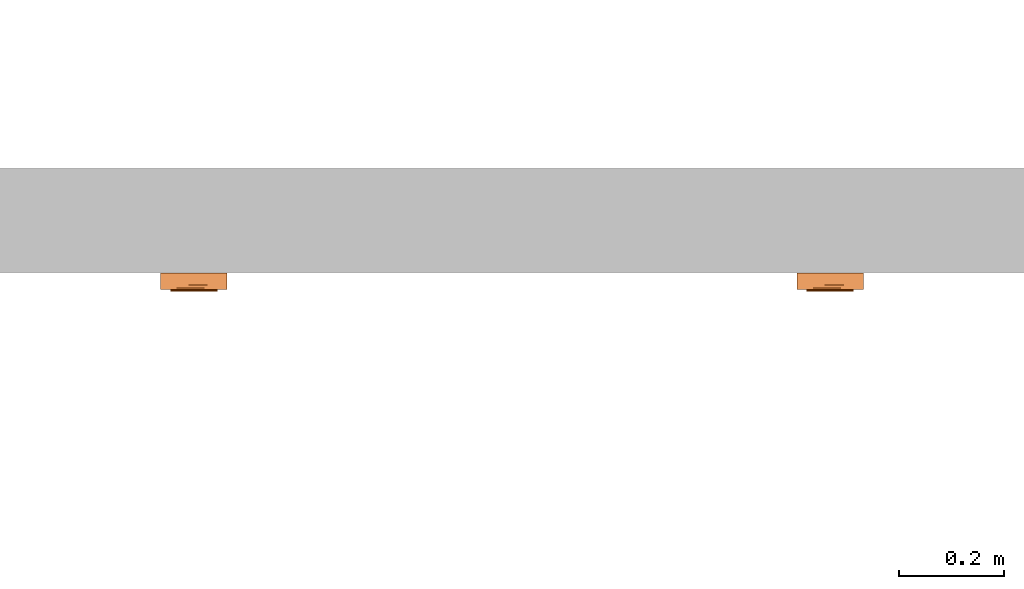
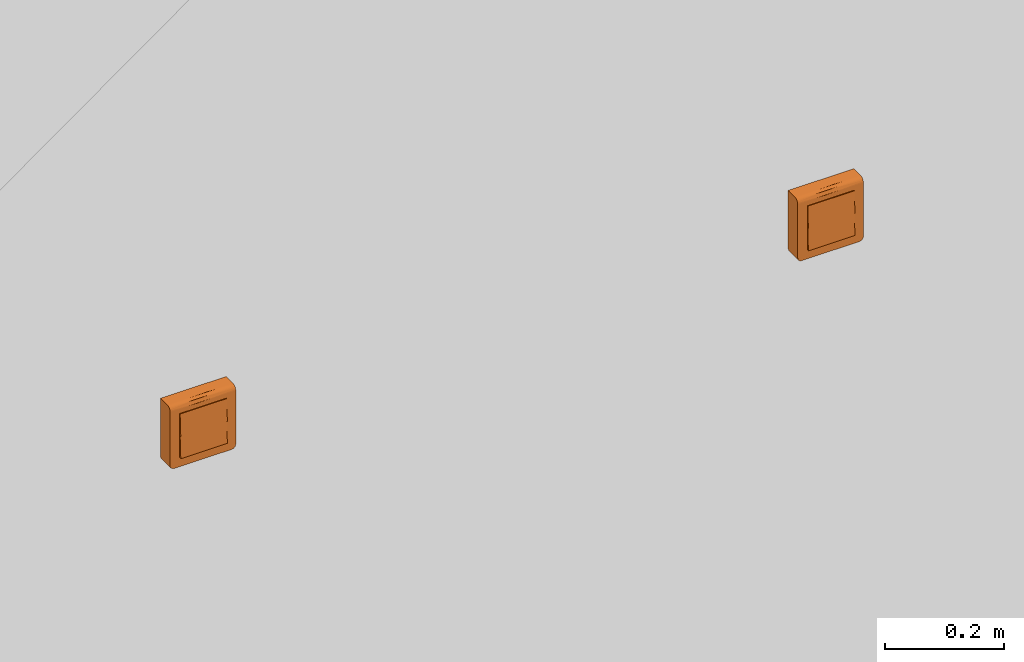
# One storey, part 166 of 197: 2 proxies.
"""IFC2X3 building model written with IfcOpenShell, lengths in metres."""

from ifc_helpers import new_model, entity, si_unit, converted_unit, direction, frame, origin, place, context, subcontext, project, spatial, faceted_brep, source, transform, mapped, material, material_list, type_object, type_shapes, element, save


model = new_model("IFC2X3")

# Units and contexts
model_context = context("Model", 3, precision=1e-05, world=origin(), true_north=direction((6.123031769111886e-17, 1.0)))
body_context = subcontext(model_context, "Body", "Model", "MODEL_VIEW")
ifc_project = project(units=[si_unit("LENGTHUNIT", "METRE"), converted_unit("PLANEANGLEUNIT", "DEGREE", entity("IfcPlaneAngleMeasure", 0.017453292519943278), si_unit("PLANEANGLEUNIT", "RADIAN"), dimensions=[0, 0, 0, 0, 0, 0, 0]), si_unit("AREAUNIT", "SQUARE_METRE")], contexts=[model_context])

# Site, building, storey
site_placement = place(None, origin())
site = spatial("IfcSite", under=ifc_project, at=site_placement, Name="Default", CompositionType="ELEMENT")
building_placement = place(site_placement, origin())
building = spatial("IfcBuilding", under=site, at=building_placement, CompositionType="ELEMENT")
storey_placement = place(building_placement, origin())
storey = spatial("IfcBuildingStorey", under=building, at=storey_placement, Name="Niveau 0", CompositionType="ELEMENT", Elevation=0.0)

# Proxies
ifc_material_1 = material(Name="BETCE-CADRE-BLANC")
ifc_material_2 = material(Name="BETCE-DOIGT-BLANC")
ifc_material_3 = material(Name="BETCE-ENJOLIVEUR-BLANC")
ifc_material_list = material_list([ifc_material_1, ifc_material_2, ifc_material_3])
building_element_proxy_type_1 = type_object("IfcBuildingElementProxyType", Name="Tableau commande 2x4 modules saillie:2 BP + 6 VV", PredefinedType="NOTDEFINED", material=ifc_material_list)
shared_shape_1 = source(origin(), body_context, "Body", "Brep", [
    faceted_brep([(0.06349999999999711, -0.022999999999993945, 0.0635), (-0.06350000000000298, -0.022999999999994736, 0.0635), (-0.06350000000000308, -0.022999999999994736, -0.055499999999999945), (-0.06322740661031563, -0.022999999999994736, -0.05757055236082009), (-0.06242820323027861, -0.02299999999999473, -0.059499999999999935), (-0.06115685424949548, -0.022999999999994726, -0.06115685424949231), (-0.05950000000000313, -0.022999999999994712, -0.06242820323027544), (-0.05757055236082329, -0.0229999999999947, -0.06322740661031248), (-0.05550000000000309, -0.022999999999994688, -0.06350000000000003), (0.055499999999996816, -0.022999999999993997, -0.0635000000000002), (0.057570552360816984, -0.022999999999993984, -0.06322740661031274), (0.05949999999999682, -0.022999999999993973, -0.062428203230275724), (0.06115685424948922, -0.022999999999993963, -0.061156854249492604), (0.062428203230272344, -0.022999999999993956, -0.05950000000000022), (0.0632274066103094, -0.022999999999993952, -0.0575705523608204), (0.06349999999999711, -0.022999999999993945, -0.05550000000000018), (-0.05550000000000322, 0.0, -0.06349999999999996), (-0.05757055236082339, 0.0, -0.06322740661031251), (-0.05950000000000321, 0.0, -0.062428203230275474), (-0.06115685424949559, 0.0, -0.06115685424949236), (-0.06242820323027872, 0.0, -0.05949999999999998), (-0.06322740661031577, 0.0, -0.05757055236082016), (-0.06350000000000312, 0.0, -0.055499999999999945), (-0.06350000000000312, 0.0, 0.0635), (0.06349999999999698, 0.0, 0.0635), (0.06349999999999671, 0.0, -0.05550000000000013), (0.06322740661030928, 0.0, -0.0575705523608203), (0.06242820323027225, 0.0, -0.05950000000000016), (0.06115685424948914, 0.0, -0.061156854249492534), (0.059499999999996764, 0.0, -0.062428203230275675), (0.05757055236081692, 0.0, -0.06322740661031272), (0.055499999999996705, 0.0, -0.0635)], [[[0, 1, 2, 3, 4, 5, 6, 7, 8, 9, 10, 11, 12, 13, 14, 15]], [[16, 17, 18, 19, 20, 21, 22, 23, 24, 25, 26, 27, 28, 29, 30, 31]], [[2, 1, 23, 22]], [[9, 8, 16, 31]], [[0, 15, 25, 24]], [[1, 0, 24, 23]], [[25, 15, 14, 26]], [[26, 14, 13, 27]], [[27, 13, 12, 28]], [[29, 11, 10, 30]], [[30, 10, 9, 31]], [[28, 12, 11, 29]], [[17, 16, 8, 7]], [[18, 17, 7, 6]], [[19, 18, 6, 5]], [[20, 19, 5, 4]], [[21, 20, 4, 3]], [[22, 21, 3, 2]]]),
    faceted_brep([(0.022499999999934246, -0.022999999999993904, -0.045000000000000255), (0.022499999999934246, -0.022999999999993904, 0.0), (0.04499999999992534, -0.022999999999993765, 0.0), (0.04499999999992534, -0.022999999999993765, -0.045000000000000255), (0.022499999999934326, -0.03574999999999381, -0.045000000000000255), (0.02249999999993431, -0.033499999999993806, 0.0), (0.044999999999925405, -0.03349999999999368, 0.0), (0.04499999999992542, -0.03574999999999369, -0.045000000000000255)], [[[0, 1, 2, 3]], [[1, 0, 4, 5]], [[2, 1, 5, 6]], [[3, 2, 6, 7]], [[0, 3, 7, 4]], [[5, 4, 7, 6]]]),
    faceted_brep([(0.0, -0.022999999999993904, -0.04500000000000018), (0.0, -0.022999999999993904, 0.0), (0.02249999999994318, -0.022999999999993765, 0.0), (0.02249999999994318, -0.022999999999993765, -0.04500000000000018), (0.0, -0.03574999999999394, -0.04500000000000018), (0.0, -0.03349999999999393, 0.0), (0.022499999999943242, -0.033499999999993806, 0.0), (0.02249999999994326, -0.03574999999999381, -0.04500000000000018)], [[[0, 1, 2, 3]], [[1, 0, 4, 5]], [[2, 1, 5, 6]], [[3, 2, 6, 7]], [[0, 3, 7, 4]], [[5, 4, 7, 6]]]),
    faceted_brep([(-0.02250000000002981, -0.022999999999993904, -0.0450000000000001), (-0.02250000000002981, -0.022999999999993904, 0.0), (0.0, -0.022999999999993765, 0.0), (0.0, -0.022999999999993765, -0.0450000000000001), (-0.02250000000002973, -0.03574999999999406, -0.0450000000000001), (-0.022500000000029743, -0.03349999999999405, 0.0), (0.0, -0.033499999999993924, 0.0), (0.0, -0.03574999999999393, -0.0450000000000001)], [[[0, 1, 2, 3]], [[1, 0, 4, 5]], [[2, 1, 5, 6]], [[3, 2, 6, 7]], [[0, 3, 7, 4]], [[5, 4, 7, 6]]]),
    faceted_brep([(-0.04500000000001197, -0.022999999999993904, -0.045000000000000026), (-0.04500000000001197, -0.022999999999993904, 0.0), (-0.022500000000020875, -0.022999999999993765, 0.0), (-0.022500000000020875, -0.022999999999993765, -0.045000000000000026), (-0.04500000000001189, -0.03574999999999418, -0.045000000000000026), (-0.0450000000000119, -0.03349999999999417, 0.0), (-0.02250000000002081, -0.03349999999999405, 0.0), (-0.022500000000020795, -0.03574999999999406, -0.045000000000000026)], [[[0, 1, 2, 3]], [[1, 0, 4, 5]], [[2, 1, 5, 6]], [[3, 2, 6, 7]], [[0, 3, 7, 4]], [[5, 4, 7, 6]]]),
    faceted_brep([(0.02249999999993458, -0.03349999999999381, 0.04499999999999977), (0.022499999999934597, -0.03574999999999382, 0.0), (0.04499999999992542, -0.0357499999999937, 0.0), (0.044999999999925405, -0.03349999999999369, 0.04499999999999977), (0.022499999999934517, -0.022999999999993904, 0.0), (0.022499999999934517, -0.022999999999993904, 0.04499999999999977), (0.04499999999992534, -0.022999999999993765, 0.04499999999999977), (0.04499999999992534, -0.022999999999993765, 0.0)], [[[0, 1, 2, 3]], [[4, 5, 6, 7]], [[5, 4, 1, 0]], [[6, 5, 0, 3]], [[7, 6, 3, 2]], [[4, 7, 2, 1]]]),
    faceted_brep([(0.0, -0.03349999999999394, 0.044999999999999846), (0.0, -0.035749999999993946, 0.0), (0.02249999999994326, -0.03574999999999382, 0.0), (0.022499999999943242, -0.03349999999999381, 0.044999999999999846), (0.0, -0.022999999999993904, 0.0), (0.0, -0.022999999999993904, 0.044999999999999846), (0.02249999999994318, -0.022999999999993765, 0.04499999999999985), (0.02249999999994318, -0.022999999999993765, 0.0)], [[[0, 1, 2, 3]], [[4, 5, 6, 7]], [[5, 4, 1, 0]], [[6, 5, 0, 3]], [[7, 6, 3, 2]], [[4, 7, 2, 1]]]),
    faceted_brep([(-0.022500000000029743, -0.03349999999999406, 0.04499999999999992), (-0.02250000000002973, -0.03574999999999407, 0.0), (0.0, -0.03574999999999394, 0.0), (0.0, -0.03349999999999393, 0.04499999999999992), (-0.02250000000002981, -0.022999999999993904, 0.0), (-0.02250000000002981, -0.022999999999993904, 0.04499999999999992), (0.0, -0.022999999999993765, 0.04499999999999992), (0.0, -0.022999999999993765, 0.0)], [[[0, 1, 2, 3]], [[4, 5, 6, 7]], [[5, 4, 1, 0]], [[6, 5, 0, 3]], [[7, 6, 3, 2]], [[4, 7, 2, 1]]]),
    faceted_brep([(-0.04500000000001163, -0.03349999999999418, 0.045), (-0.045000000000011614, -0.03574999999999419, 0.0), (-0.022500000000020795, -0.035749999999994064, 0.0), (-0.02250000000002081, -0.03349999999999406, 0.045), (-0.0450000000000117, -0.022999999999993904, 0.0), (-0.0450000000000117, -0.022999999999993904, 0.045), (-0.022500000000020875, -0.022999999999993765, 0.045000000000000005), (-0.022500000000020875, -0.022999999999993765, 0.0)], [[[0, 1, 2, 3]], [[4, 5, 6, 7]], [[5, 4, 1, 0]], [[6, 5, 0, 3]], [[7, 6, 3, 2]], [[4, 7, 2, 1]]]),
    faceted_brep([(0.06349999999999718, -0.03199999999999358, -0.055500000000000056), (0.063499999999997, -0.03199999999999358, 0.05450000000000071), (0.04499999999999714, -0.03199999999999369, -0.045000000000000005), (0.05549999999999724, -0.03199999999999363, -0.06350000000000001), (0.057570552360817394, -0.03199999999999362, -0.06322740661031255), (0.06322740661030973, -0.03199999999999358, -0.05757055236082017), (0.04499999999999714, -0.03199999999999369, 0.045), (-0.04500000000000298, -0.031999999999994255, 0.045000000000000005), (-0.011124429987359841, -0.03199999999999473, 0.054500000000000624), (-0.06350000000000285, -0.03199999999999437, 0.05450000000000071), (-0.04500000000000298, -0.031999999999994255, -0.045000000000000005), (-0.06350000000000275, -0.03199999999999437, -0.05550000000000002), (-0.05550000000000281, -0.03199999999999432, -0.06350000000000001), (-0.05757055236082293, -0.03199999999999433, -0.06322740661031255), (-0.06322740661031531, -0.031999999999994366, -0.05757055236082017), (-0.05950000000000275, -0.031999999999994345, -0.062428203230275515), (-0.06242820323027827, -0.03199999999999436, -0.05950000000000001), (-0.06115685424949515, -0.03199999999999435, -0.06115685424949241), (0.05949999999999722, -0.0319999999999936, -0.062428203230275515), (0.062428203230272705, -0.03199999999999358, -0.05949999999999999), (0.06115685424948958, -0.031999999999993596, -0.061156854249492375), (-0.06350000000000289, -0.02299999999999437, -0.05550000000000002), (-0.06350000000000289, -0.02299999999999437, 0.06350000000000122), (-0.04500000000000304, -0.02299999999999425, 0.045000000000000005), (-0.04500000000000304, -0.02299999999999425, -0.045000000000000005), (-0.05550000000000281, -0.02299999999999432, -0.06350000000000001), (-0.06322740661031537, -0.022999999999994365, -0.05757055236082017), (0.04499999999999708, -0.022999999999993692, 0.045000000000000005), (0.011124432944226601, -0.022999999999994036, 0.06350000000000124), (0.06349999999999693, -0.022999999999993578, 0.0635), (0.06349999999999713, -0.022999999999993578, -0.05550000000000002), (0.04499999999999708, -0.022999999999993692, -0.045000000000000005), (0.05549999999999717, -0.02299999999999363, -0.06350000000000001), (0.06322740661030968, -0.022999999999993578, -0.05757055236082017), (0.05757055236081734, -0.022999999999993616, -0.06322740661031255), (0.06242820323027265, -0.022999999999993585, -0.05949999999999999), (0.05949999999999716, -0.022999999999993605, -0.062428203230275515), (0.06115685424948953, -0.02299999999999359, -0.061156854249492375), (-0.05757055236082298, -0.02299999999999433, -0.06322740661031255), (-0.062428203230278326, -0.022999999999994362, -0.05950000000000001), (-0.05950000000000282, -0.022999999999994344, -0.062428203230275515), (-0.0611568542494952, -0.02299999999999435, -0.06115685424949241), (0.06349999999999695, -0.025329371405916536, 0.06319333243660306), (0.06349999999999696, -0.02749999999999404, 0.06229422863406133), (0.06349999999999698, -0.029363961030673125, 0.060863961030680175), (0.06349999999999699, -0.03079422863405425, 0.05900000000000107), (0.06349999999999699, -0.03169333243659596, 0.05682937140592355), (-0.06350000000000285, -0.03169333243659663, 0.0568293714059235), (-0.06350000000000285, -0.030794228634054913, 0.059000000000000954), (-0.06350000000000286, -0.029363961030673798, 0.06086396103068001), (-0.06350000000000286, -0.027499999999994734, 0.062294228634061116), (-0.06350000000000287, -0.025329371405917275, 0.06319333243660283), (-0.010857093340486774, -0.029120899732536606, 0.06109807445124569)], [[[0, 1, 2]], [[3, 0, 2]], [[0, 3, 4]], [[5, 0, 4]], [[2, 1, 6]], [[1, 7, 6]], [[7, 1, 8]], [[7, 8, 9]], [[10, 7, 9]], [[11, 10, 9]], [[12, 10, 11]], [[12, 11, 13]], [[13, 11, 14]], [[15, 13, 14]], [[16, 15, 14]], [[15, 16, 17]], [[10, 12, 3]], [[2, 10, 3]], [[5, 4, 18]], [[5, 18, 19]], [[20, 19, 18]], [[21, 22, 23]], [[24, 21, 23]], [[25, 21, 24]], [[26, 21, 25]], [[22, 27, 23]], [[27, 22, 28]], [[27, 28, 29]], [[30, 27, 29]], [[31, 27, 30]], [[32, 31, 30]], [[32, 30, 33]], [[32, 33, 34]], [[33, 35, 34]], [[35, 36, 34]], [[36, 35, 37]], [[31, 32, 25]], [[26, 25, 38]], [[24, 31, 25]], [[39, 26, 38]], [[39, 38, 40]], [[41, 39, 40]], [[1, 0, 30, 29, 42, 43, 44, 45, 46]], [[33, 30, 0, 5]], [[35, 33, 5, 19]], [[37, 35, 19, 20]], [[36, 37, 20, 18]], [[34, 36, 18, 4]], [[32, 34, 4, 3]], [[25, 32, 3, 12]], [[38, 25, 12, 13]], [[40, 38, 13, 15]], [[41, 40, 15, 17]], [[39, 41, 17, 16]], [[26, 39, 16, 14]], [[21, 26, 14, 11]], [[22, 21, 11, 9, 47, 48, 49, 50, 51]], [[24, 23, 7, 10]], [[31, 24, 10, 2]], [[27, 31, 2, 6]], [[23, 27, 6, 7]], [[52, 8, 45]], [[47, 9, 8]], [[1, 46, 8]], [[44, 52, 45]], [[46, 45, 8]], [[50, 52, 51]], [[48, 47, 8]], [[28, 52, 43]], [[48, 52, 49]], [[42, 29, 28]], [[28, 22, 51]], [[48, 8, 52]], [[28, 43, 42]], [[44, 43, 52]], [[52, 50, 49]], [[52, 28, 51]]]),
])
type_shapes(building_element_proxy_type_1, [shared_shape_1])
proxy_1_placement = place(storey_placement, frame((-353.6250435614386, 116.01635778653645, 1.1)))
element("IfcBuildingElementProxy", 1, at=proxy_1_placement, inside=storey, type_object=building_element_proxy_type_1, material=ifc_material_list, Name="Tableau commande 2x4 modules saillie:2 BP + 6 VV", ObjectType="Tableau commande 2x4 modules saillie:2 BP + 6 VV", context=body_context, shape_type="MappedRepresentation", body=[
    mapped(shared_shape_1, transform((0.0, 0.0, 0.0), scale=1.0)),
])
building_element_proxy_type_2 = type_object("IfcBuildingElementProxyType", Name="Tableau commande 2x4 modules saillie:3 BP + 5 VV", PredefinedType="NOTDEFINED", material=ifc_material_list)
shared_shape_2 = source(origin(), body_context, "Body", "Brep", [
    faceted_brep([(0.06349999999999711, -0.022999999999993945, 0.0635), (-0.06350000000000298, -0.022999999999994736, 0.0635), (-0.06350000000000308, -0.022999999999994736, -0.055499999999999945), (-0.06322740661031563, -0.022999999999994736, -0.05757055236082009), (-0.06242820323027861, -0.02299999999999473, -0.059499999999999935), (-0.06115685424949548, -0.022999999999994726, -0.06115685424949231), (-0.05950000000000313, -0.022999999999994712, -0.06242820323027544), (-0.05757055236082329, -0.0229999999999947, -0.06322740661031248), (-0.05550000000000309, -0.022999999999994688, -0.06350000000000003), (0.055499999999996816, -0.022999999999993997, -0.0635000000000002), (0.057570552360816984, -0.022999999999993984, -0.06322740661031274), (0.05949999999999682, -0.022999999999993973, -0.062428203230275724), (0.06115685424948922, -0.022999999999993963, -0.061156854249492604), (0.062428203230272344, -0.022999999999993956, -0.05950000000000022), (0.0632274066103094, -0.022999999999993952, -0.0575705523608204), (0.06349999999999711, -0.022999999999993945, -0.05550000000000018), (-0.05550000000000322, 0.0, -0.06349999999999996), (-0.05757055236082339, 0.0, -0.06322740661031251), (-0.05950000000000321, 0.0, -0.062428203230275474), (-0.06115685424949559, 0.0, -0.06115685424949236), (-0.06242820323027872, 0.0, -0.05949999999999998), (-0.06322740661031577, 0.0, -0.05757055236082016), (-0.06350000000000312, 0.0, -0.055499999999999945), (-0.06350000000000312, 0.0, 0.0635), (0.06349999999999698, 0.0, 0.0635), (0.06349999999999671, 0.0, -0.05550000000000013), (0.06322740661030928, 0.0, -0.0575705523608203), (0.06242820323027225, 0.0, -0.05950000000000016), (0.06115685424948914, 0.0, -0.061156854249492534), (0.059499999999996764, 0.0, -0.062428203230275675), (0.05757055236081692, 0.0, -0.06322740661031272), (0.055499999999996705, 0.0, -0.0635)], [[[0, 1, 2, 3, 4, 5, 6, 7, 8, 9, 10, 11, 12, 13, 14, 15]], [[16, 17, 18, 19, 20, 21, 22, 23, 24, 25, 26, 27, 28, 29, 30, 31]], [[2, 1, 23, 22]], [[9, 8, 16, 31]], [[0, 15, 25, 24]], [[1, 0, 24, 23]], [[25, 15, 14, 26]], [[26, 14, 13, 27]], [[27, 13, 12, 28]], [[29, 11, 10, 30]], [[30, 10, 9, 31]], [[28, 12, 11, 29]], [[17, 16, 8, 7]], [[18, 17, 7, 6]], [[19, 18, 6, 5]], [[20, 19, 5, 4]], [[21, 20, 4, 3]], [[22, 21, 3, 2]]]),
    faceted_brep([(0.022499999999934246, -0.022999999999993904, -0.045000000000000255), (0.022499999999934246, -0.022999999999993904, 0.0), (0.04499999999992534, -0.022999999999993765, 0.0), (0.04499999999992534, -0.022999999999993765, -0.045000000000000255), (0.022499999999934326, -0.03574999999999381, -0.045000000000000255), (0.02249999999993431, -0.033499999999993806, 0.0), (0.044999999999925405, -0.03349999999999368, 0.0), (0.04499999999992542, -0.03574999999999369, -0.045000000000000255)], [[[0, 1, 2, 3]], [[1, 0, 4, 5]], [[2, 1, 5, 6]], [[3, 2, 6, 7]], [[0, 3, 7, 4]], [[5, 4, 7, 6]]]),
    faceted_brep([(0.0, -0.022999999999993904, -0.04500000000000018), (0.0, -0.022999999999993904, 0.0), (0.02249999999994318, -0.022999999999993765, 0.0), (0.02249999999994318, -0.022999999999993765, -0.04500000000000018), (0.0, -0.03574999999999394, -0.04500000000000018), (0.0, -0.03349999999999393, 0.0), (0.022499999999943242, -0.033499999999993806, 0.0), (0.02249999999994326, -0.03574999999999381, -0.04500000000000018)], [[[0, 1, 2, 3]], [[1, 0, 4, 5]], [[2, 1, 5, 6]], [[3, 2, 6, 7]], [[0, 3, 7, 4]], [[5, 4, 7, 6]]]),
    faceted_brep([(-0.02250000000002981, -0.022999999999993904, -0.0450000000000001), (-0.02250000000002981, -0.022999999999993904, 0.0), (0.0, -0.022999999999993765, 0.0), (0.0, -0.022999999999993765, -0.0450000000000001), (-0.02250000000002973, -0.03574999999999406, -0.0450000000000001), (-0.022500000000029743, -0.03349999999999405, 0.0), (0.0, -0.033499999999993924, 0.0), (0.0, -0.03574999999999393, -0.0450000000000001)], [[[0, 1, 2, 3]], [[1, 0, 4, 5]], [[2, 1, 5, 6]], [[3, 2, 6, 7]], [[0, 3, 7, 4]], [[5, 4, 7, 6]]]),
    faceted_brep([(-0.04500000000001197, -0.022999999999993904, -0.045000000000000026), (-0.04500000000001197, -0.022999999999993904, 0.0), (-0.022500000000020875, -0.022999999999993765, 0.0), (-0.022500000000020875, -0.022999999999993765, -0.045000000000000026), (-0.04500000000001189, -0.03574999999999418, -0.045000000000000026), (-0.0450000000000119, -0.03349999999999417, 0.0), (-0.02250000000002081, -0.03349999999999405, 0.0), (-0.022500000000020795, -0.03574999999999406, -0.045000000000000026)], [[[0, 1, 2, 3]], [[1, 0, 4, 5]], [[2, 1, 5, 6]], [[3, 2, 6, 7]], [[0, 3, 7, 4]], [[5, 4, 7, 6]]]),
    faceted_brep([(0.02249999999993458, -0.03349999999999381, 0.04499999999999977), (0.022499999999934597, -0.03574999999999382, 0.0), (0.04499999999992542, -0.0357499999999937, 0.0), (0.044999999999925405, -0.03349999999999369, 0.04499999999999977), (0.022499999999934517, -0.022999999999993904, 0.0), (0.022499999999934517, -0.022999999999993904, 0.04499999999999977), (0.04499999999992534, -0.022999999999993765, 0.04499999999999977), (0.04499999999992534, -0.022999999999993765, 0.0)], [[[0, 1, 2, 3]], [[4, 5, 6, 7]], [[5, 4, 1, 0]], [[6, 5, 0, 3]], [[7, 6, 3, 2]], [[4, 7, 2, 1]]]),
    faceted_brep([(0.0, -0.03349999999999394, 0.044999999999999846), (0.0, -0.035749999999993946, 0.0), (0.02249999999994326, -0.03574999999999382, 0.0), (0.022499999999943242, -0.03349999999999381, 0.044999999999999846), (0.0, -0.022999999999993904, 0.0), (0.0, -0.022999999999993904, 0.044999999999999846), (0.02249999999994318, -0.022999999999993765, 0.04499999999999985), (0.02249999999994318, -0.022999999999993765, 0.0)], [[[0, 1, 2, 3]], [[4, 5, 6, 7]], [[5, 4, 1, 0]], [[6, 5, 0, 3]], [[7, 6, 3, 2]], [[4, 7, 2, 1]]]),
    faceted_brep([(-0.022500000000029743, -0.03349999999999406, 0.04499999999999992), (-0.02250000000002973, -0.03574999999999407, 0.0), (0.0, -0.03574999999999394, 0.0), (0.0, -0.03349999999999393, 0.04499999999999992), (-0.02250000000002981, -0.022999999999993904, 0.0), (-0.02250000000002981, -0.022999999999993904, 0.04499999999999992), (0.0, -0.022999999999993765, 0.04499999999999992), (0.0, -0.022999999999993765, 0.0)], [[[0, 1, 2, 3]], [[4, 5, 6, 7]], [[5, 4, 1, 0]], [[6, 5, 0, 3]], [[7, 6, 3, 2]], [[4, 7, 2, 1]]]),
    faceted_brep([(-0.04500000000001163, -0.03349999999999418, 0.045), (-0.045000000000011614, -0.03574999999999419, 0.0), (-0.022500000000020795, -0.035749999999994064, 0.0), (-0.02250000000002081, -0.03349999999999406, 0.045), (-0.0450000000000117, -0.022999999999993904, 0.0), (-0.0450000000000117, -0.022999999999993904, 0.045), (-0.022500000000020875, -0.022999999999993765, 0.045000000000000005), (-0.022500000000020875, -0.022999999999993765, 0.0)], [[[0, 1, 2, 3]], [[4, 5, 6, 7]], [[5, 4, 1, 0]], [[6, 5, 0, 3]], [[7, 6, 3, 2]], [[4, 7, 2, 1]]]),
    faceted_brep([(0.06349999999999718, -0.03199999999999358, -0.055500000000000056), (0.063499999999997, -0.03199999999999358, 0.05450000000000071), (0.04499999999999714, -0.03199999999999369, -0.045000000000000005), (0.05549999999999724, -0.03199999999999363, -0.06350000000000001), (0.057570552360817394, -0.03199999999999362, -0.06322740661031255), (0.06322740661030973, -0.03199999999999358, -0.05757055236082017), (0.04499999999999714, -0.03199999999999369, 0.045), (-0.04500000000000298, -0.031999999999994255, 0.045000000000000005), (-0.011124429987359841, -0.03199999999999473, 0.054500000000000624), (-0.06350000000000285, -0.03199999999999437, 0.05450000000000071), (-0.04500000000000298, -0.031999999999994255, -0.045000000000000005), (-0.06350000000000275, -0.03199999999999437, -0.05550000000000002), (-0.05550000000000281, -0.03199999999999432, -0.06350000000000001), (-0.05757055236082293, -0.03199999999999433, -0.06322740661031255), (-0.06322740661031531, -0.031999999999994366, -0.05757055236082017), (-0.05950000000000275, -0.031999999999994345, -0.062428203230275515), (-0.06242820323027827, -0.03199999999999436, -0.05950000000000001), (-0.06115685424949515, -0.03199999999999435, -0.06115685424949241), (0.05949999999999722, -0.0319999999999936, -0.062428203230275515), (0.062428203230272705, -0.03199999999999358, -0.05949999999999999), (0.06115685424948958, -0.031999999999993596, -0.061156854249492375), (-0.06350000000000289, -0.02299999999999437, -0.05550000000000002), (-0.06350000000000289, -0.02299999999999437, 0.06350000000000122), (-0.04500000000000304, -0.02299999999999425, 0.045000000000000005), (-0.04500000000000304, -0.02299999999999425, -0.045000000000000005), (-0.05550000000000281, -0.02299999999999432, -0.06350000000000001), (-0.06322740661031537, -0.022999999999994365, -0.05757055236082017), (0.04499999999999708, -0.022999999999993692, 0.045000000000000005), (0.011124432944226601, -0.022999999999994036, 0.06350000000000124), (0.06349999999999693, -0.022999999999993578, 0.0635), (0.06349999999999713, -0.022999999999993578, -0.05550000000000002), (0.04499999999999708, -0.022999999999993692, -0.045000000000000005), (0.05549999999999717, -0.02299999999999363, -0.06350000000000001), (0.06322740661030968, -0.022999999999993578, -0.05757055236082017), (0.05757055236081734, -0.022999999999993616, -0.06322740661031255), (0.06242820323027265, -0.022999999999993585, -0.05949999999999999), (0.05949999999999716, -0.022999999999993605, -0.062428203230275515), (0.06115685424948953, -0.02299999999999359, -0.061156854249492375), (-0.05757055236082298, -0.02299999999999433, -0.06322740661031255), (-0.062428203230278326, -0.022999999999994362, -0.05950000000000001), (-0.05950000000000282, -0.022999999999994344, -0.062428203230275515), (-0.0611568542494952, -0.02299999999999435, -0.06115685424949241), (0.06349999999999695, -0.025329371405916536, 0.06319333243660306), (0.06349999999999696, -0.02749999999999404, 0.06229422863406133), (0.06349999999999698, -0.029363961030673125, 0.060863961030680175), (0.06349999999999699, -0.03079422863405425, 0.05900000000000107), (0.06349999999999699, -0.03169333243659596, 0.05682937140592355), (-0.06350000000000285, -0.03169333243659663, 0.0568293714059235), (-0.06350000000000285, -0.030794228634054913, 0.059000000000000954), (-0.06350000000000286, -0.029363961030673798, 0.06086396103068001), (-0.06350000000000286, -0.027499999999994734, 0.062294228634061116), (-0.06350000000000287, -0.025329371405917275, 0.06319333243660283), (-0.010857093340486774, -0.029120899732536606, 0.06109807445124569)], [[[0, 1, 2]], [[3, 0, 2]], [[0, 3, 4]], [[5, 0, 4]], [[2, 1, 6]], [[1, 7, 6]], [[7, 1, 8]], [[7, 8, 9]], [[10, 7, 9]], [[11, 10, 9]], [[12, 10, 11]], [[12, 11, 13]], [[13, 11, 14]], [[15, 13, 14]], [[16, 15, 14]], [[15, 16, 17]], [[10, 12, 3]], [[2, 10, 3]], [[5, 4, 18]], [[5, 18, 19]], [[20, 19, 18]], [[21, 22, 23]], [[24, 21, 23]], [[25, 21, 24]], [[26, 21, 25]], [[22, 27, 23]], [[27, 22, 28]], [[27, 28, 29]], [[30, 27, 29]], [[31, 27, 30]], [[32, 31, 30]], [[32, 30, 33]], [[32, 33, 34]], [[33, 35, 34]], [[35, 36, 34]], [[36, 35, 37]], [[31, 32, 25]], [[26, 25, 38]], [[24, 31, 25]], [[39, 26, 38]], [[39, 38, 40]], [[41, 39, 40]], [[1, 0, 30, 29, 42, 43, 44, 45, 46]], [[33, 30, 0, 5]], [[35, 33, 5, 19]], [[37, 35, 19, 20]], [[36, 37, 20, 18]], [[34, 36, 18, 4]], [[32, 34, 4, 3]], [[25, 32, 3, 12]], [[38, 25, 12, 13]], [[40, 38, 13, 15]], [[41, 40, 15, 17]], [[39, 41, 17, 16]], [[26, 39, 16, 14]], [[21, 26, 14, 11]], [[22, 21, 11, 9, 47, 48, 49, 50, 51]], [[24, 23, 7, 10]], [[31, 24, 10, 2]], [[27, 31, 2, 6]], [[23, 27, 6, 7]], [[52, 8, 45]], [[47, 9, 8]], [[1, 46, 8]], [[44, 52, 45]], [[46, 45, 8]], [[50, 52, 51]], [[48, 47, 8]], [[28, 52, 43]], [[48, 52, 49]], [[42, 29, 28]], [[28, 22, 51]], [[48, 8, 52]], [[28, 43, 42]], [[44, 43, 52]], [[52, 50, 49]], [[52, 28, 51]]]),
])
type_shapes(building_element_proxy_type_2, [shared_shape_2])
proxy_2_placement = place(storey_placement, frame((-352.4117796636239, 116.01635778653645, 1.1)))
element("IfcBuildingElementProxy", 2, at=proxy_2_placement, inside=storey, type_object=building_element_proxy_type_2, material=ifc_material_list, Name="Tableau commande 2x4 modules saillie:3 BP + 5 VV", ObjectType="Tableau commande 2x4 modules saillie:3 BP + 5 VV", context=body_context, shape_type="MappedRepresentation", body=[
    mapped(shared_shape_2, transform((0.0, 0.0, 0.0), scale=1.0)),
])

save(model, "model.ifc")
